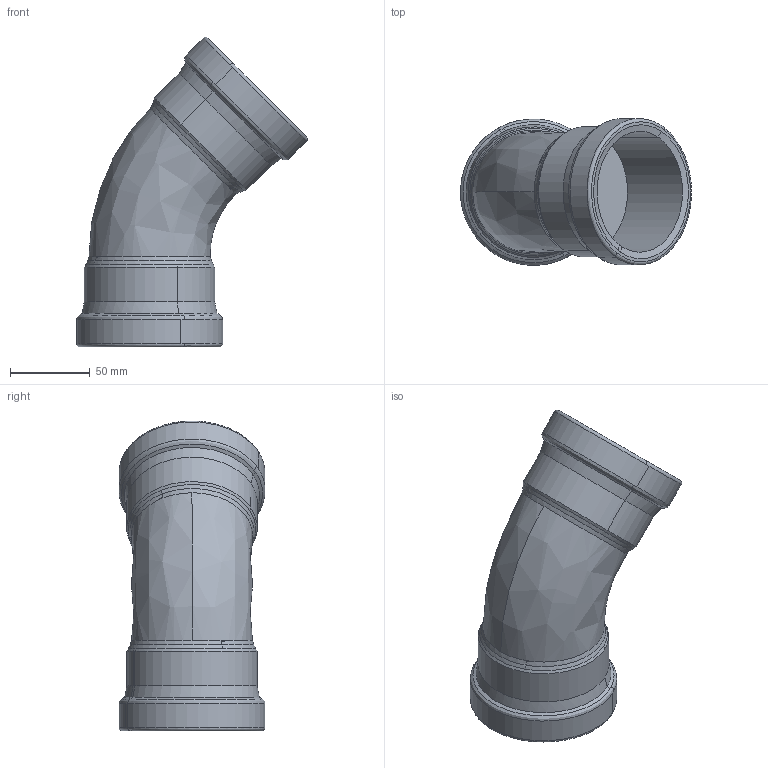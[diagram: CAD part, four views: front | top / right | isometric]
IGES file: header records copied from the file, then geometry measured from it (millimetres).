
Start section: 3D InterOp IGES (Version 25 0 1), Spatial Corp. Copyright (c) 1999-2007.
Global section: file name: pim0002613.igs; native system: Spatial Corp.; preprocessor: 3D InterOp ACIS/IGES; author: CAD-PIM; organization: TransMagic, Inc.; date: 20150318.161829; units: millimetre
Bounding box: 145.12 x 91.75 x 194.72 mm (x, y, z)
Volume: 531275.3 mm3; surface area: 85611.7 mm2
Topology: 1 solids, 1 shells, 64 faces, 158 edges, 92 vertices
Faces by surface type: bspline 64
